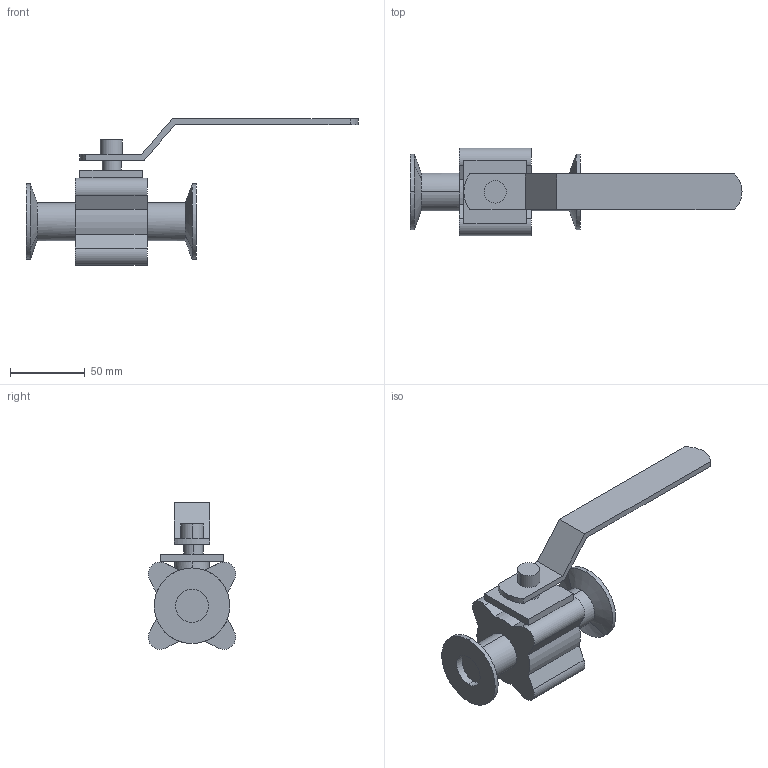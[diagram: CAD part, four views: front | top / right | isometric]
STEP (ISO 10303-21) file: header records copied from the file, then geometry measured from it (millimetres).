
FILE_DESCRIPTION(('Creo Elements/Direct Modeling STEP Export'),'2;1');
FILE_NAME('BLV1-1T-H-12CL.stp','2019-05-10T 8:07:42',(''),(''),'Creo Elements/Direct Modeling STEP processor for AP214 (Solid Model)','Creo Elements/Direct Modeling 19.0F 14-Feb-2017 (C) Parametric Technology GmbH','');
FILE_SCHEMA(('AUTOMOTIVE_DESIGN { 1 0 10303 214 1 1 1 1 }'));
Length unit declared in the file: millimetre
Products named in the file (2): BLV1-1T-H-12CL
Assembly tree (1 placements, depth 2):
  BLV1-1T-H-12CL
    BLV1-1T-H-12CL
Bounding box: 222 x 58.42 x 98.21 mm (x, y, z)
Volume: 210613 mm3; surface area: 43931.9 mm2
Topology: 1 solids, 1 shells, 62 faces, 156 edges, 104 vertices
Faces by surface type: plane 29, cylinder 29, cone 4
Entity records: 1831 total; most frequent: CARTESIAN_POINT 344, ORIENTED_EDGE 312, DIRECTION 290, EDGE_CURVE 156, VERTEX_POINT 104, AXIS2_PLACEMENT_3D 102, VECTOR 86, LINE 86
